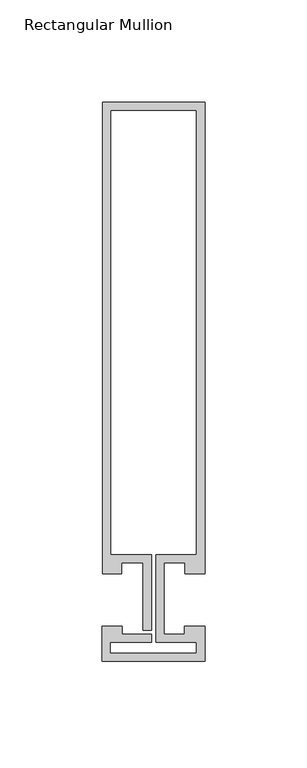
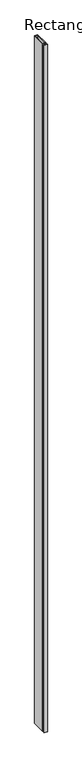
"""IFC4 building model written with IfcOpenShell, lengths in millimetres: member geometry, Rectangular Mullion : Reynaers_CW-50_Transom-Transom_230.5mm_Facecap-02B."""

from ifc_helpers import new_model, si_unit, frame, origin, place, context, project, spatial, polyline, outline, extrude, source, transform, mapped, element, save


def rectangular_mullion_cac935a3(model_context):
    return source(origin(), model_context, "Body", "SweptSolid", [
        extrude(outline(polyline([(25.1995941, -12.7331291), (25.1995941, -30.0331291), (-24.994845, -30.0331291), (-24.994845, -12.7331291), (-15.2996495, -12.7331291), (-15.2996495, -16.7331291), (-0.9004059, -16.7331291), (-0.9004059, -20.7331291), (-20.994845, -20.7331291), (-20.994845, -26.0331291), (21.1995941, -26.0331291), (21.1995941, -20.7331291), (1.2995941, -20.7331291), (1.2995941, 22.1331291), (21.1995941, 22.1331291), (21.1995941, 239.2331291), (-20.8004059, 239.2331291), (-20.8004059, 22.1331291), (-0.9004059, 22.1331291), (-0.9004059, -14.7331291), (-4.9004059, -14.7331291), (-4.9004059, 18.1331291), (-15.499, 18.1331291), (-15.499, 12.7331291), (-24.8004059, 12.7331291), (-24.8004059, 243.2331291), (25.1995941, 243.2331291), (25.1995941, 12.7331291), (15.499, 12.7331291), (15.499, 18.1331291), (5.2995941, 18.1331291), (5.2995941, -16.7331291), (15.2996495, -16.7331291), (15.2996495, -12.7331291), (25.1995941, -12.7331291)])), frame((0.0, 0.0, -12000.0), z_axis=(0.0, 0.0, 1.0), x_axis=(1.0, 0.0, 0.0)), (0.0, 0.0, 1.0), 12000.0),
    ])


if __name__ == "__main__":
    model = new_model("IFC4")
    model_context = context("Model", 3, world=origin())
    ifc_project = project(units=[si_unit("LENGTHUNIT", "METRE", prefix="MILLI")], contexts=[model_context])
    site = spatial("IfcSite", under=ifc_project)
    building = spatial("IfcBuilding", under=site)
    placement = place(None, origin())
    rectangular_mullion_shape = rectangular_mullion_cac935a3(model_context)
    element("IfcMember", 1, ObjectType="Rectangular Mullion : Reynaers_CW-50_Transom-Transom_230.5mm_Facecap-02B", at=placement, inside=building, context=model_context, shape_type="MappedRepresentation", body=[
        mapped(rectangular_mullion_shape, transform((0.0, 0.0, 0.0), x_axis=(1.0, 0.0, 0.0), y_axis=(0.0, 1.0, 0.0), z_axis=(0.0, 0.0, 1.0))),
    ])
    save(model, "model.ifc")
